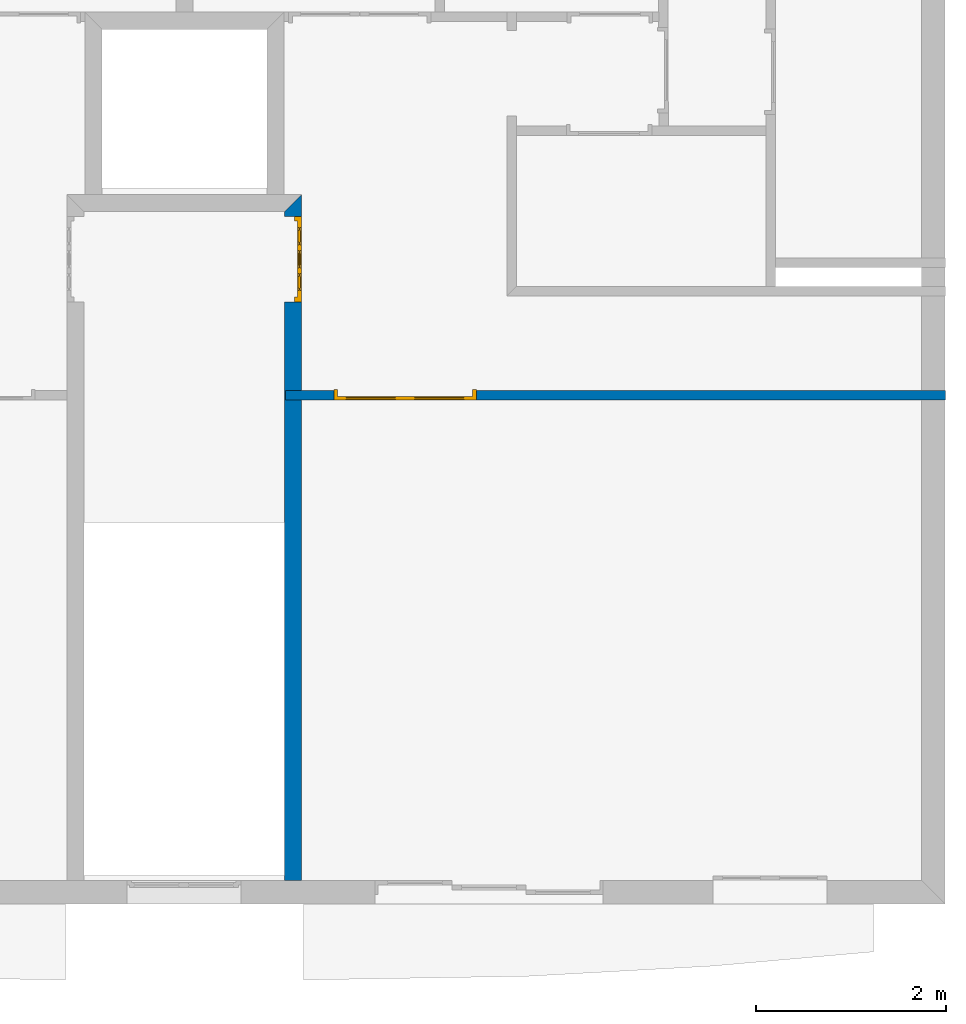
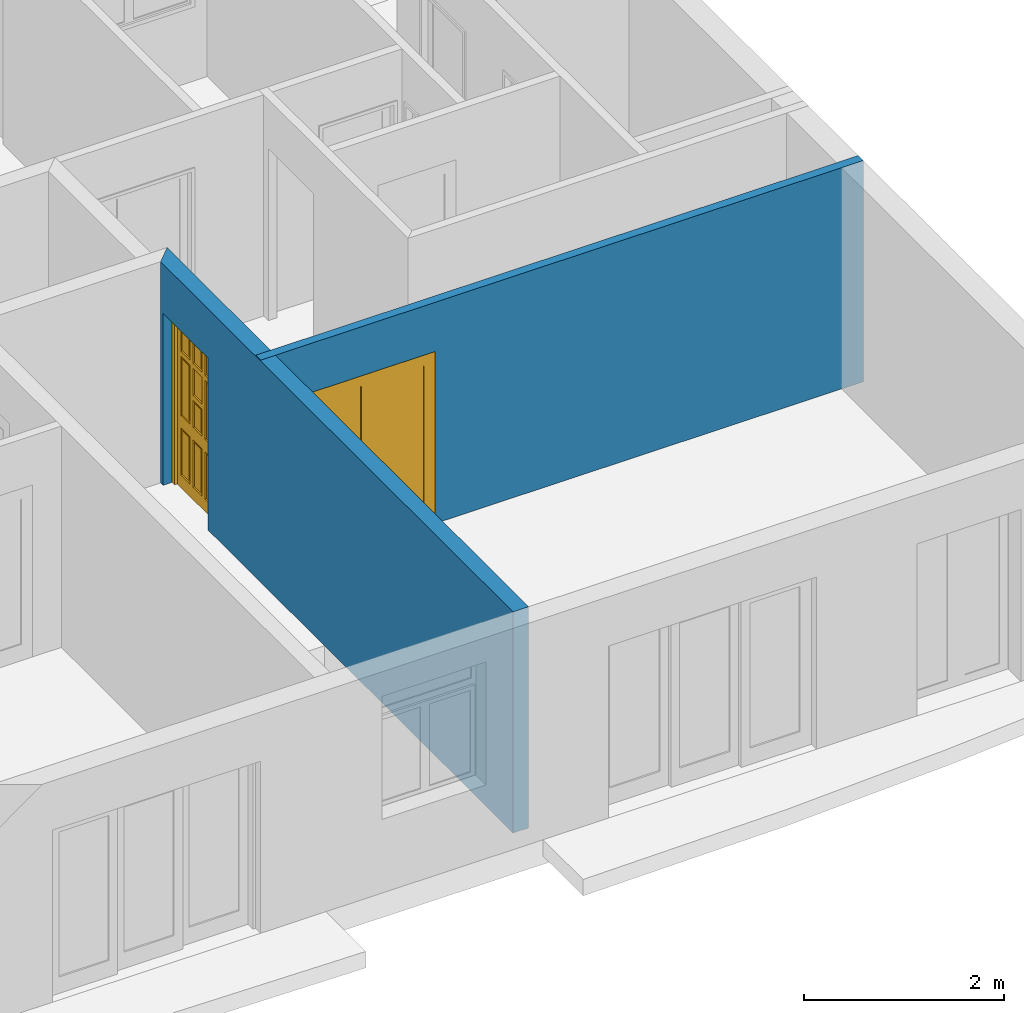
# One storey, part 6 of 11: 2 doors, 2 walls, 2 openings.
"""IFC2X3 building model written with IfcOpenShell, lengths in metres."""

from ifc_helpers import new_model, entity, si_unit, converted_unit, direction, frame, frame_2d, origin_with_axes, place, context, project, spatial, polyline, rectangle, outline, extrude, faceted_brep, source, transform, mapped, material, layer, layer_set, layer_usage, type_object, element, fill, save


model = new_model("IFC2X3")

# Units and contexts
context_of_model = context(None, 3, precision=1e-05, world=origin_with_axes(), true_north=direction((6.123234e-17, 1.0)))
plan_context = context("Plan", 3, precision=1e-05, world=origin_with_axes(), true_north=direction((6.123234e-17, 1.0)))
model_context = context("Model", 3, precision=1e-05, world=origin_with_axes(), true_north=direction((6.123234e-17, 1.0)))
ifc_project = project(units=[si_unit("LENGTHUNIT", "METRE"), si_unit("AREAUNIT", "SQUARE_METRE"), si_unit("VOLUMEUNIT", "CUBIC_METRE"), converted_unit("PLANEANGLEUNIT", "DEGREE", entity("IfcPlaneAngleMeasure", 0.017453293), si_unit("PLANEANGLEUNIT", "RADIAN"), dimensions=[0, 0, 0, 0, 0, 0, 0]), si_unit("SOLIDANGLEUNIT", "STERADIAN"), si_unit("MASSUNIT", "GRAM"), si_unit("TIMEUNIT", "SECOND"), si_unit("THERMODYNAMICTEMPERATUREUNIT", "DEGREE_CELSIUS"), si_unit("LUMINOUSINTENSITYUNIT", "LUMEN")], contexts=[context_of_model, plan_context, model_context])

# Site, building, storey
site_placement = place(None, origin_with_axes())
site = spatial("IfcSite", under=ifc_project, at=site_placement, Name="Por defecto Sitio", CompositionType="ELEMENT")
building_placement = place(site_placement, origin_with_axes())
building = spatial("IfcBuilding", under=site, at=building_placement, Name="Por defecto Edificio", CompositionType="ELEMENT")
storey_placement = place(building_placement, frame((0.0, 0.0, 13.2), z_axis=(0.0, 0.0, 1.0), x_axis=(1.0, 0.0, 0.0)))
storey = spatial("IfcBuildingStorey", under=building, at=storey_placement, Name="Cuarta", CompositionType="ELEMENT", Elevation=13.2)

# Wall, opening, door
ifc_material = material(Name="Ladrillo común")
ifc_layer_1 = layer(ifc_material, 0.18, ventilated="UNKNOWN")
ifc_layer_set_1 = layer_set([ifc_layer_1], Name="Ladrillo común")
ifc_layer_usage_1 = layer_usage(ifc_layer_set_1, "AXIS2", "POSITIVE", 0.0)
wall_type_1 = type_object("IfcWallType", Name="Ladrillo común", PredefinedType="NOTDEFINED")
wall_1_placement = place(storey_placement, frame((9.0691698, 7.2976562, 0.0), z_axis=(0.0, 0.0, 1.0), x_axis=(0.0, -1.0, 0.0)))
wall_1 = element("IfcWallStandardCase", 1, at=wall_1_placement, inside=storey, type_object=wall_type_1, material=ifc_layer_usage_1, Name="Muro-010", context=context_of_model, shape_type="SweptSolid", body=[
    extrude(outline(polyline([(0.0, 0.0), (7.0476562, 0.0), (7.0476562, 0.18), (-0.18, 0.18), (0.0, 0.0)])), origin_with_axes(), (0.0, 0.0, 1.0), 2.7),
])
opening_1_placement = place(wall_1_placement, frame((0.5, 0.0, 0.0), z_axis=(0.0, 0.0, 1.0), x_axis=(1.0, 0.0, 0.0)))
opening_1 = element("IfcOpeningElement", 2, at=opening_1_placement, cuts=wall_1, ObjectType="Opening", context=model_context, shape_type="SweptSolid", body=[
    extrude(rectangle(XDim=0.9, YDim=2.1, at=frame_2d((0.0, 1.05), x_axis=(-1.0, 0.0))), frame((0.0, 0.0, 0.0), z_axis=(0.0, 1.0, 0.0), x_axis=(-1.0, 0.0, 0.0)), (0.0, 0.0, 1.0), 0.18),
])
door_style_1 = type_object("IfcDoorStyle", Name="P1 Entrada 12", ConstructionType="NOTDEFINED", OperationType="SINGLE_SWING_RIGHT", ParameterTakesPrecedence=False, Sizeable=False)
shared_shape_1 = source(origin_with_axes(), model_context, "Body", "Brep", [
    faceted_brep([(0.05, 0.031, 0.0), (0.05, 0.031, 2.05), (0.05, 0.0, 2.05), (0.05, 0.0, 0.0), (0.038, 0.031, 2.05), (0.038, 0.031, 0.0), (0.038, 0.075, 2.05), (0.0, 0.075, 2.05), (0.0, 0.0, 2.05), (0.0, 0.0, 0.0), (0.0, 0.075, 0.0), (0.038, 0.075, 0.0)], [[[0, 1, 2, 3]], [[4, 1, 0, 5]], [[4, 6, 7, 8, 2, 1]], [[9, 3, 2, 8]], [[5, 0, 3, 9, 10, 11]], [[6, 4, 5, 11]], [[6, 11, 10, 7]], [[8, 7, 10, 9]]]),
    faceted_brep([(0.862, 0.031, 2.05), (0.85, 0.031, 2.05), (0.85, 0.0, 2.05), (0.9, 0.0, 2.05), (0.9, 0.075, 2.05), (0.862, 0.075, 2.05), (0.862, 0.031, 0.0), (0.85, 0.031, 0.0), (0.85, 0.0, 0.0), (0.9, 0.0, 0.0), (0.9, 0.075, 0.0), (0.862, 0.075, 0.0)], [[[0, 1, 2, 3, 4, 5]], [[1, 0, 6, 7]], [[1, 7, 8, 2]], [[8, 9, 3, 2]], [[9, 10, 4, 3]], [[11, 5, 4, 10]], [[0, 5, 11, 6]], [[6, 11, 10, 9, 8, 7]]]),
    faceted_brep([(0.038, 0.075, 2.062), (0.038, 0.075, 2.05), (0.0, 0.075, 2.05), (0.0, 0.075, 2.1), (0.9, 0.075, 2.1), (0.9, 0.075, 2.05), (0.862, 0.075, 2.05), (0.862, 0.075, 2.062), (0.038, 0.031, 2.062), (0.038, 0.031, 2.05), (0.05, 0.031, 2.05), (0.05, 0.0, 2.05), (0.0, 0.0, 2.05), (0.0, 0.0, 2.1), (0.9, 0.0, 2.1), (0.9, 0.0, 2.05), (0.862, 0.031, 2.05), (0.85, 0.0, 2.05), (0.85, 0.031, 2.05), (0.862, 0.031, 2.062)], [[[0, 1, 2, 3, 4, 5, 6, 7]], [[1, 0, 8, 9]], [[9, 10, 11, 12, 2, 1]], [[13, 3, 2, 12]], [[14, 4, 3, 13]], [[15, 5, 4, 14]], [[16, 6, 5, 15, 17, 18]], [[7, 6, 16, 19]], [[0, 7, 19, 8]], [[16, 18, 10, 9, 8, 19]], [[10, 18, 17, 11]], [[14, 13, 12, 11, 17, 15]]]),
    faceted_brep([(0.862, 0.075, 0.15), (0.862, 0.031, 0.15), (0.782, 0.031, 0.15), (0.782, 0.075, 0.15), (0.862, 0.075, 1.952), (0.862, 0.031, 1.952), (0.782, 0.031, 1.952), (0.782, 0.031, 1.6618667), (0.782, 0.031, 1.6018667), (0.782, 0.031, 0.88), (0.782, 0.031, 0.73), (0.782, 0.075, 0.73), (0.782, 0.075, 0.88), (0.782, 0.075, 1.6018667), (0.782, 0.075, 1.6618667), (0.782, 0.075, 1.952)], [[[0, 1, 2, 3]], [[4, 5, 1, 0]], [[1, 5, 6, 7, 8, 9, 10, 2]], [[3, 2, 10, 11]], [[0, 3, 11, 12, 13, 14, 15, 4]], [[15, 6, 5, 4]], [[14, 7, 6, 15]], [[13, 8, 7, 14]], [[12, 9, 8, 13]], [[11, 10, 9, 12]]]),
    faceted_brep([(0.038, 0.075, 0.15), (0.038, 0.031, 0.15), (0.038, 0.031, 1.952), (0.038, 0.075, 1.952), (0.118, 0.075, 0.15), (0.118, 0.031, 0.15), (0.118, 0.031, 0.73), (0.118, 0.031, 0.88), (0.118, 0.031, 1.6018667), (0.118, 0.031, 1.6618667), (0.118, 0.031, 1.952), (0.118, 0.075, 1.952), (0.118, 0.075, 1.6618667), (0.118, 0.075, 1.6018667), (0.118, 0.075, 0.88), (0.118, 0.075, 0.73)], [[[0, 1, 2, 3]], [[4, 5, 1, 0]], [[1, 5, 6, 7, 8, 9, 10, 2]], [[3, 2, 10, 11]], [[0, 3, 11, 12, 13, 14, 15, 4]], [[15, 6, 5, 4]], [[14, 7, 6, 15]], [[13, 8, 7, 14]], [[12, 9, 8, 13]], [[11, 10, 9, 12]]]),
    faceted_brep([(0.862, 0.075, 0.0), (0.862, 0.031, 0.0), (0.038, 0.031, 0.0), (0.038, 0.075, 0.0), (0.862, 0.075, 0.15), (0.862, 0.031, 0.15), (0.782, 0.031, 0.15), (0.60066667, 0.031, 0.15), (0.54066667, 0.031, 0.15), (0.35933333, 0.031, 0.15), (0.29933333, 0.031, 0.15), (0.118, 0.031, 0.15), (0.038, 0.031, 0.15), (0.038, 0.075, 0.15), (0.118, 0.075, 0.15), (0.29933333, 0.075, 0.15), (0.35933333, 0.075, 0.15), (0.54066667, 0.075, 0.15), (0.60066667, 0.075, 0.15), (0.782, 0.075, 0.15)], [[[0, 1, 2, 3]], [[4, 5, 1, 0]], [[1, 5, 6, 7, 8, 9, 10, 11, 12, 2]], [[3, 2, 12, 13]], [[0, 3, 13, 14, 15, 16, 17, 18, 19, 4]], [[19, 6, 5, 4]], [[18, 7, 6, 19]], [[17, 8, 7, 18]], [[16, 9, 8, 17]], [[15, 10, 9, 16]], [[14, 11, 10, 15]], [[13, 12, 11, 14]]]),
    faceted_brep([(0.862, 0.075, 2.062), (0.862, 0.031, 2.062), (0.862, 0.031, 1.952), (0.862, 0.075, 1.952), (0.038, 0.075, 2.062), (0.038, 0.031, 2.062), (0.038, 0.031, 1.952), (0.118, 0.031, 1.952), (0.29933333, 0.031, 1.952), (0.35933333, 0.031, 1.952), (0.54066667, 0.031, 1.952), (0.60066667, 0.031, 1.952), (0.782, 0.031, 1.952), (0.782, 0.075, 1.952), (0.60066667, 0.075, 1.952), (0.54066667, 0.075, 1.952), (0.35933333, 0.075, 1.952), (0.29933333, 0.075, 1.952), (0.118, 0.075, 1.952), (0.038, 0.075, 1.952)], [[[0, 1, 2, 3]], [[4, 5, 1, 0]], [[1, 5, 6, 7, 8, 9, 10, 11, 12, 2]], [[3, 2, 12, 13]], [[0, 3, 13, 14, 15, 16, 17, 18, 19, 4]], [[19, 6, 5, 4]], [[18, 7, 6, 19]], [[17, 8, 7, 18]], [[16, 9, 8, 17]], [[15, 10, 9, 16]], [[14, 11, 10, 15]], [[13, 12, 11, 14]]]),
    faceted_brep([(0.54066667, 0.075, 0.15), (0.54066667, 0.031, 0.15), (0.54066667, 0.031, 0.73), (0.54066667, 0.075, 0.73), (0.60066667, 0.075, 0.15), (0.60066667, 0.031, 0.15), (0.60066667, 0.031, 0.73), (0.60066667, 0.075, 0.73)], [[[0, 1, 2, 3]], [[4, 5, 1, 0]], [[1, 5, 6, 2]], [[3, 2, 6, 7]], [[0, 3, 7, 4]], [[7, 6, 5, 4]]]),
    faceted_brep([(0.54066667, 0.075, 0.88), (0.54066667, 0.031, 0.88), (0.54066667, 0.031, 1.2109333), (0.54066667, 0.075, 1.2109333), (0.60066667, 0.075, 0.88), (0.60066667, 0.031, 0.88), (0.60066667, 0.031, 1.6018667), (0.54066667, 0.031, 1.6018667), (0.54066667, 0.031, 1.2709333), (0.54066667, 0.075, 1.2709333), (0.54066667, 0.075, 1.6018667), (0.60066667, 0.075, 1.6018667)], [[[0, 1, 2, 3]], [[4, 5, 1, 0]], [[1, 5, 6, 7, 8, 2]], [[3, 2, 8, 9]], [[0, 3, 9, 10, 11, 4]], [[11, 6, 5, 4]], [[10, 7, 6, 11]], [[9, 8, 7, 10]]]),
    faceted_brep([(0.54066667, 0.075, 1.6618667), (0.54066667, 0.031, 1.6618667), (0.54066667, 0.031, 1.952), (0.54066667, 0.075, 1.952), (0.60066667, 0.075, 1.6618667), (0.60066667, 0.031, 1.6618667), (0.60066667, 0.031, 1.952), (0.60066667, 0.075, 1.952)], [[[0, 1, 2, 3]], [[4, 5, 1, 0]], [[1, 5, 6, 2]], [[3, 2, 6, 7]], [[0, 3, 7, 4]], [[7, 6, 5, 4]]]),
    faceted_brep([(0.29933333, 0.075, 0.15), (0.29933333, 0.031, 0.15), (0.29933333, 0.031, 0.73), (0.29933333, 0.075, 0.73), (0.35933333, 0.075, 0.15), (0.35933333, 0.031, 0.15), (0.35933333, 0.031, 0.73), (0.35933333, 0.075, 0.73)], [[[0, 1, 2, 3]], [[4, 5, 1, 0]], [[1, 5, 6, 2]], [[3, 2, 6, 7]], [[0, 3, 7, 4]], [[7, 6, 5, 4]]]),
    faceted_brep([(0.29933333, 0.075, 0.88), (0.29933333, 0.031, 0.88), (0.29933333, 0.031, 1.6018667), (0.29933333, 0.075, 1.6018667), (0.35933333, 0.075, 0.88), (0.35933333, 0.031, 0.88), (0.35933333, 0.031, 1.2109333), (0.35933333, 0.031, 1.2709333), (0.35933333, 0.031, 1.6018667), (0.35933333, 0.075, 1.6018667), (0.35933333, 0.075, 1.2709333), (0.35933333, 0.075, 1.2109333)], [[[0, 1, 2, 3]], [[4, 5, 1, 0]], [[1, 5, 6, 7, 8, 2]], [[3, 2, 8, 9]], [[0, 3, 9, 10, 11, 4]], [[11, 6, 5, 4]], [[10, 7, 6, 11]], [[9, 8, 7, 10]]]),
    faceted_brep([(0.29933333, 0.075, 1.6618667), (0.29933333, 0.031, 1.6618667), (0.29933333, 0.031, 1.952), (0.29933333, 0.075, 1.952), (0.35933333, 0.075, 1.6618667), (0.35933333, 0.031, 1.6618667), (0.35933333, 0.031, 1.952), (0.35933333, 0.075, 1.952)], [[[0, 1, 2, 3]], [[4, 5, 1, 0]], [[1, 5, 6, 2]], [[3, 2, 6, 7]], [[0, 3, 7, 4]], [[7, 6, 5, 4]]]),
    faceted_brep([(0.782, 0.075, 1.6018667), (0.782, 0.031, 1.6018667), (0.60066667, 0.031, 1.6018667), (0.60066667, 0.075, 1.6018667), (0.782, 0.075, 1.6618667), (0.782, 0.031, 1.6618667), (0.60066667, 0.031, 1.6618667), (0.54066667, 0.031, 1.6618667), (0.35933333, 0.031, 1.6618667), (0.29933333, 0.031, 1.6618667), (0.118, 0.031, 1.6618667), (0.118, 0.031, 1.6018667), (0.29933333, 0.031, 1.6018667), (0.35933333, 0.031, 1.6018667), (0.54066667, 0.031, 1.6018667), (0.54066667, 0.075, 1.6018667), (0.35933333, 0.075, 1.6018667), (0.29933333, 0.075, 1.6018667), (0.118, 0.075, 1.6018667), (0.118, 0.075, 1.6618667), (0.29933333, 0.075, 1.6618667), (0.35933333, 0.075, 1.6618667), (0.54066667, 0.075, 1.6618667), (0.60066667, 0.075, 1.6618667)], [[[0, 1, 2, 3]], [[4, 5, 1, 0]], [[1, 5, 6, 7, 8, 9, 10, 11, 12, 13, 14, 2]], [[3, 2, 14, 15]], [[0, 3, 15, 16, 17, 18, 19, 20, 21, 22, 23, 4]], [[23, 6, 5, 4]], [[22, 7, 6, 23]], [[21, 8, 7, 22]], [[20, 9, 8, 21]], [[19, 10, 9, 20]], [[18, 11, 10, 19]], [[17, 12, 11, 18]], [[16, 13, 12, 17]], [[15, 14, 13, 16]]]),
    faceted_brep([(0.35933333, 0.075, 1.2109333), (0.35933333, 0.031, 1.2109333), (0.35933333, 0.031, 1.2709333), (0.35933333, 0.075, 1.2709333), (0.54066667, 0.075, 1.2109333), (0.54066667, 0.031, 1.2109333), (0.54066667, 0.031, 1.2709333), (0.54066667, 0.075, 1.2709333)], [[[0, 1, 2, 3]], [[4, 5, 1, 0]], [[1, 5, 6, 2]], [[3, 2, 6, 7]], [[0, 3, 7, 4]], [[7, 6, 5, 4]]]),
    faceted_brep([(0.782, 0.075, 0.73), (0.782, 0.031, 0.73), (0.60066667, 0.031, 0.73), (0.60066667, 0.075, 0.73), (0.782, 0.075, 0.88), (0.782, 0.031, 0.88), (0.60066667, 0.031, 0.88), (0.54066667, 0.031, 0.88), (0.35933333, 0.031, 0.88), (0.29933333, 0.031, 0.88), (0.118, 0.031, 0.88), (0.118, 0.031, 0.73), (0.29933333, 0.031, 0.73), (0.35933333, 0.031, 0.73), (0.54066667, 0.031, 0.73), (0.54066667, 0.075, 0.73), (0.35933333, 0.075, 0.73), (0.29933333, 0.075, 0.73), (0.118, 0.075, 0.73), (0.118, 0.075, 0.88), (0.29933333, 0.075, 0.88), (0.35933333, 0.075, 0.88), (0.54066667, 0.075, 0.88), (0.60066667, 0.075, 0.88)], [[[0, 1, 2, 3]], [[4, 5, 1, 0]], [[1, 5, 6, 7, 8, 9, 10, 11, 12, 13, 14, 2]], [[3, 2, 14, 15]], [[0, 3, 15, 16, 17, 18, 19, 20, 21, 22, 23, 4]], [[23, 6, 5, 4]], [[22, 7, 6, 23]], [[21, 8, 7, 22]], [[20, 9, 8, 21]], [[19, 10, 9, 20]], [[18, 11, 10, 19]], [[17, 12, 11, 18]], [[16, 13, 12, 17]], [[15, 14, 13, 16]]]),
    faceted_brep([(0.782, 0.058, 0.15), (0.782, 0.048, 0.15), (0.60066667, 0.048, 0.15), (0.60066667, 0.058, 0.15), (0.782, 0.058, 0.73), (0.782, 0.048, 0.73), (0.60066667, 0.048, 0.73), (0.60066667, 0.058, 0.73)], [[[0, 1, 2, 3]], [[4, 5, 1, 0]], [[1, 5, 6, 2]], [[3, 2, 6, 7]], [[0, 3, 7, 4]], [[7, 6, 5, 4]]]),
    faceted_brep([(0.54066667, 0.058, 0.15), (0.54066667, 0.048, 0.15), (0.35933333, 0.048, 0.15), (0.35933333, 0.058, 0.15), (0.54066667, 0.058, 0.73), (0.54066667, 0.048, 0.73), (0.35933333, 0.048, 0.73), (0.35933333, 0.058, 0.73)], [[[0, 1, 2, 3]], [[4, 5, 1, 0]], [[1, 5, 6, 2]], [[3, 2, 6, 7]], [[0, 3, 7, 4]], [[7, 6, 5, 4]]]),
    faceted_brep([(0.29933333, 0.058, 0.15), (0.29933333, 0.048, 0.15), (0.118, 0.048, 0.15), (0.118, 0.058, 0.15), (0.29933333, 0.058, 0.73), (0.29933333, 0.048, 0.73), (0.118, 0.048, 0.73), (0.118, 0.058, 0.73)], [[[0, 1, 2, 3]], [[4, 5, 1, 0]], [[1, 5, 6, 2]], [[3, 2, 6, 7]], [[0, 3, 7, 4]], [[7, 6, 5, 4]]]),
    faceted_brep([(0.782, 0.058, 1.6618667), (0.782, 0.048, 1.6618667), (0.60066667, 0.048, 1.6618667), (0.60066667, 0.058, 1.6618667), (0.782, 0.058, 1.952), (0.782, 0.048, 1.952), (0.60066667, 0.048, 1.952), (0.60066667, 0.058, 1.952)], [[[0, 1, 2, 3]], [[4, 5, 1, 0]], [[1, 5, 6, 2]], [[3, 2, 6, 7]], [[0, 3, 7, 4]], [[7, 6, 5, 4]]]),
    faceted_brep([(0.54066667, 0.058, 1.6618667), (0.54066667, 0.048, 1.6618667), (0.35933333, 0.048, 1.6618667), (0.35933333, 0.058, 1.6618667), (0.54066667, 0.058, 1.952), (0.54066667, 0.048, 1.952), (0.35933333, 0.048, 1.952), (0.35933333, 0.058, 1.952)], [[[0, 1, 2, 3]], [[4, 5, 1, 0]], [[1, 5, 6, 2]], [[3, 2, 6, 7]], [[0, 3, 7, 4]], [[7, 6, 5, 4]]]),
    faceted_brep([(0.29933333, 0.058, 1.6618667), (0.29933333, 0.048, 1.6618667), (0.118, 0.048, 1.6618667), (0.118, 0.058, 1.6618667), (0.29933333, 0.058, 1.952), (0.29933333, 0.048, 1.952), (0.118, 0.048, 1.952), (0.118, 0.058, 1.952)], [[[0, 1, 2, 3]], [[4, 5, 1, 0]], [[1, 5, 6, 2]], [[3, 2, 6, 7]], [[0, 3, 7, 4]], [[7, 6, 5, 4]]]),
    faceted_brep([(0.782, 0.058, 0.88), (0.782, 0.048, 0.88), (0.60066667, 0.048, 0.88), (0.60066667, 0.058, 0.88), (0.782, 0.058, 1.6018667), (0.782, 0.048, 1.6018667), (0.60066667, 0.048, 1.6018667), (0.60066667, 0.058, 1.6018667)], [[[0, 1, 2, 3]], [[4, 5, 1, 0]], [[1, 5, 6, 2]], [[3, 2, 6, 7]], [[0, 3, 7, 4]], [[7, 6, 5, 4]]]),
    faceted_brep([(0.54066667, 0.058, 0.88), (0.54066667, 0.048, 0.88), (0.35933333, 0.048, 0.88), (0.35933333, 0.058, 0.88), (0.54066667, 0.058, 1.2109333), (0.54066667, 0.048, 1.2109333), (0.35933333, 0.048, 1.2109333), (0.35933333, 0.058, 1.2109333)], [[[0, 1, 2, 3]], [[4, 5, 1, 0]], [[1, 5, 6, 2]], [[3, 2, 6, 7]], [[0, 3, 7, 4]], [[7, 6, 5, 4]]]),
    faceted_brep([(0.29933333, 0.058, 0.88), (0.29933333, 0.048, 0.88), (0.118, 0.048, 0.88), (0.118, 0.058, 0.88), (0.29933333, 0.058, 1.6018667), (0.29933333, 0.048, 1.6018667), (0.118, 0.048, 1.6018667), (0.118, 0.058, 1.6018667)], [[[0, 1, 2, 3]], [[4, 5, 1, 0]], [[1, 5, 6, 2]], [[3, 2, 6, 7]], [[0, 3, 7, 4]], [[7, 6, 5, 4]]]),
    faceted_brep([(0.54066667, 0.058, 1.2709333), (0.54066667, 0.048, 1.2709333), (0.35933333, 0.048, 1.2709333), (0.35933333, 0.058, 1.2709333), (0.54066667, 0.058, 1.6018667), (0.54066667, 0.048, 1.6018667), (0.35933333, 0.048, 1.6018667), (0.35933333, 0.058, 1.6018667)], [[[0, 1, 2, 3]], [[4, 5, 1, 0]], [[1, 5, 6, 2]], [[3, 2, 6, 7]], [[0, 3, 7, 4]], [[7, 6, 5, 4]]]),
    faceted_brep([(0.752, 0.066, 0.18), (0.752, 0.058, 0.18), (0.63066667, 0.058, 0.18), (0.63066667, 0.066, 0.18), (0.752, 0.066, 0.7), (0.752, 0.058, 0.7), (0.63066667, 0.058, 0.7), (0.63066667, 0.066, 0.7)], [[[0, 1, 2, 3]], [[4, 5, 1, 0]], [[1, 5, 6, 2]], [[3, 2, 6, 7]], [[0, 3, 7, 4]], [[7, 6, 5, 4]]]),
    faceted_brep([(0.51066667, 0.066, 0.18), (0.51066667, 0.058, 0.18), (0.38933333, 0.058, 0.18), (0.38933333, 0.066, 0.18), (0.51066667, 0.066, 0.7), (0.51066667, 0.058, 0.7), (0.38933333, 0.058, 0.7), (0.38933333, 0.066, 0.7)], [[[0, 1, 2, 3]], [[4, 5, 1, 0]], [[1, 5, 6, 2]], [[3, 2, 6, 7]], [[0, 3, 7, 4]], [[7, 6, 5, 4]]]),
    faceted_brep([(0.26933333, 0.066, 0.18), (0.26933333, 0.058, 0.18), (0.148, 0.058, 0.18), (0.148, 0.066, 0.18), (0.26933333, 0.066, 0.7), (0.26933333, 0.058, 0.7), (0.148, 0.058, 0.7), (0.148, 0.066, 0.7)], [[[0, 1, 2, 3]], [[4, 5, 1, 0]], [[1, 5, 6, 2]], [[3, 2, 6, 7]], [[0, 3, 7, 4]], [[7, 6, 5, 4]]]),
    faceted_brep([(0.752, 0.066, 1.6918667), (0.752, 0.058, 1.6918667), (0.63066667, 0.058, 1.6918667), (0.63066667, 0.066, 1.6918667), (0.752, 0.066, 1.922), (0.752, 0.058, 1.922), (0.63066667, 0.058, 1.922), (0.63066667, 0.066, 1.922)], [[[0, 1, 2, 3]], [[4, 5, 1, 0]], [[1, 5, 6, 2]], [[3, 2, 6, 7]], [[0, 3, 7, 4]], [[7, 6, 5, 4]]]),
    faceted_brep([(0.51066667, 0.066, 1.6918667), (0.51066667, 0.058, 1.6918667), (0.38933333, 0.058, 1.6918667), (0.38933333, 0.066, 1.6918667), (0.51066667, 0.066, 1.922), (0.51066667, 0.058, 1.922), (0.38933333, 0.058, 1.922), (0.38933333, 0.066, 1.922)], [[[0, 1, 2, 3]], [[4, 5, 1, 0]], [[1, 5, 6, 2]], [[3, 2, 6, 7]], [[0, 3, 7, 4]], [[7, 6, 5, 4]]]),
    faceted_brep([(0.26933333, 0.066, 1.6918667), (0.26933333, 0.058, 1.6918667), (0.148, 0.058, 1.6918667), (0.148, 0.066, 1.6918667), (0.26933333, 0.066, 1.922), (0.26933333, 0.058, 1.922), (0.148, 0.058, 1.922), (0.148, 0.066, 1.922)], [[[0, 1, 2, 3]], [[4, 5, 1, 0]], [[1, 5, 6, 2]], [[3, 2, 6, 7]], [[0, 3, 7, 4]], [[7, 6, 5, 4]]]),
    faceted_brep([(0.752, 0.066, 0.91), (0.752, 0.058, 0.91), (0.63066667, 0.058, 0.91), (0.63066667, 0.066, 0.91), (0.752, 0.066, 1.5718667), (0.752, 0.058, 1.5718667), (0.63066667, 0.058, 1.5718667), (0.63066667, 0.066, 1.5718667)], [[[0, 1, 2, 3]], [[4, 5, 1, 0]], [[1, 5, 6, 2]], [[3, 2, 6, 7]], [[0, 3, 7, 4]], [[7, 6, 5, 4]]]),
    faceted_brep([(0.51066667, 0.066, 0.91), (0.51066667, 0.058, 0.91), (0.38933333, 0.058, 0.91), (0.38933333, 0.066, 0.91), (0.51066667, 0.066, 1.1809333), (0.51066667, 0.058, 1.1809333), (0.38933333, 0.058, 1.1809333), (0.38933333, 0.066, 1.1809333)], [[[0, 1, 2, 3]], [[4, 5, 1, 0]], [[1, 5, 6, 2]], [[3, 2, 6, 7]], [[0, 3, 7, 4]], [[7, 6, 5, 4]]]),
    faceted_brep([(0.26933333, 0.066, 0.91), (0.26933333, 0.058, 0.91), (0.148, 0.058, 0.91), (0.148, 0.066, 0.91), (0.26933333, 0.066, 1.5718667), (0.26933333, 0.058, 1.5718667), (0.148, 0.058, 1.5718667), (0.148, 0.066, 1.5718667)], [[[0, 1, 2, 3]], [[4, 5, 1, 0]], [[1, 5, 6, 2]], [[3, 2, 6, 7]], [[0, 3, 7, 4]], [[7, 6, 5, 4]]]),
    faceted_brep([(0.752, 0.048, 0.18), (0.752, 0.04, 0.18), (0.63066667, 0.04, 0.18), (0.63066667, 0.048, 0.18), (0.752, 0.048, 0.7), (0.752, 0.04, 0.7), (0.63066667, 0.04, 0.7), (0.63066667, 0.048, 0.7)], [[[0, 1, 2, 3]], [[4, 5, 1, 0]], [[1, 5, 6, 2]], [[3, 2, 6, 7]], [[0, 3, 7, 4]], [[7, 6, 5, 4]]]),
    faceted_brep([(0.51066667, 0.048, 0.18), (0.51066667, 0.04, 0.18), (0.38933333, 0.04, 0.18), (0.38933333, 0.048, 0.18), (0.51066667, 0.048, 0.7), (0.51066667, 0.04, 0.7), (0.38933333, 0.04, 0.7), (0.38933333, 0.048, 0.7)], [[[0, 1, 2, 3]], [[4, 5, 1, 0]], [[1, 5, 6, 2]], [[3, 2, 6, 7]], [[0, 3, 7, 4]], [[7, 6, 5, 4]]]),
    faceted_brep([(0.26933333, 0.048, 0.18), (0.26933333, 0.04, 0.18), (0.148, 0.04, 0.18), (0.148, 0.048, 0.18), (0.26933333, 0.048, 0.7), (0.26933333, 0.04, 0.7), (0.148, 0.04, 0.7), (0.148, 0.048, 0.7)], [[[0, 1, 2, 3]], [[4, 5, 1, 0]], [[1, 5, 6, 2]], [[3, 2, 6, 7]], [[0, 3, 7, 4]], [[7, 6, 5, 4]]]),
    faceted_brep([(0.752, 0.048, 1.6918667), (0.752, 0.04, 1.6918667), (0.63066667, 0.04, 1.6918667), (0.63066667, 0.048, 1.6918667), (0.752, 0.048, 1.922), (0.752, 0.04, 1.922), (0.63066667, 0.04, 1.922), (0.63066667, 0.048, 1.922)], [[[0, 1, 2, 3]], [[4, 5, 1, 0]], [[1, 5, 6, 2]], [[3, 2, 6, 7]], [[0, 3, 7, 4]], [[7, 6, 5, 4]]]),
    faceted_brep([(0.51066667, 0.048, 1.6918667), (0.51066667, 0.04, 1.6918667), (0.38933333, 0.04, 1.6918667), (0.38933333, 0.048, 1.6918667), (0.51066667, 0.048, 1.922), (0.51066667, 0.04, 1.922), (0.38933333, 0.04, 1.922), (0.38933333, 0.048, 1.922)], [[[0, 1, 2, 3]], [[4, 5, 1, 0]], [[1, 5, 6, 2]], [[3, 2, 6, 7]], [[0, 3, 7, 4]], [[7, 6, 5, 4]]]),
    faceted_brep([(0.26933333, 0.048, 1.6918667), (0.26933333, 0.04, 1.6918667), (0.148, 0.04, 1.6918667), (0.148, 0.048, 1.6918667), (0.26933333, 0.048, 1.922), (0.26933333, 0.04, 1.922), (0.148, 0.04, 1.922), (0.148, 0.048, 1.922)], [[[0, 1, 2, 3]], [[4, 5, 1, 0]], [[1, 5, 6, 2]], [[3, 2, 6, 7]], [[0, 3, 7, 4]], [[7, 6, 5, 4]]]),
    faceted_brep([(0.752, 0.048, 0.91), (0.752, 0.04, 0.91), (0.63066667, 0.04, 0.91), (0.63066667, 0.048, 0.91), (0.752, 0.048, 1.5718667), (0.752, 0.04, 1.5718667), (0.63066667, 0.04, 1.5718667), (0.63066667, 0.048, 1.5718667)], [[[0, 1, 2, 3]], [[4, 5, 1, 0]], [[1, 5, 6, 2]], [[3, 2, 6, 7]], [[0, 3, 7, 4]], [[7, 6, 5, 4]]]),
    faceted_brep([(0.51066667, 0.048, 0.91), (0.51066667, 0.04, 0.91), (0.38933333, 0.04, 0.91), (0.38933333, 0.048, 0.91), (0.51066667, 0.048, 1.1809333), (0.51066667, 0.04, 1.1809333), (0.38933333, 0.04, 1.1809333), (0.38933333, 0.048, 1.1809333)], [[[0, 1, 2, 3]], [[4, 5, 1, 0]], [[1, 5, 6, 2]], [[3, 2, 6, 7]], [[0, 3, 7, 4]], [[7, 6, 5, 4]]]),
    faceted_brep([(0.26933333, 0.048, 0.91), (0.26933333, 0.04, 0.91), (0.148, 0.04, 0.91), (0.148, 0.048, 0.91), (0.26933333, 0.048, 1.5718667), (0.26933333, 0.04, 1.5718667), (0.148, 0.04, 1.5718667), (0.148, 0.048, 1.5718667)], [[[0, 1, 2, 3]], [[4, 5, 1, 0]], [[1, 5, 6, 2]], [[3, 2, 6, 7]], [[0, 3, 7, 4]], [[7, 6, 5, 4]]]),
])
door_1_placement = place(opening_1_placement, frame((-0.45, 0.105, 0.0), z_axis=(0.0, 0.0, 1.0), x_axis=(1.0, 0.0, 0.0)))
door_1 = element("IfcDoor", 3, at=door_1_placement, inside=storey, type_object=door_style_1, Name="P14", OverallHeight=2.1, OverallWidth=0.9, context=model_context, shape_type="MappedRepresentation", body=[
    mapped(shared_shape_1, transform((0.0, 0.0, 0.0), scale=1.0)),
])
fill(opening_1, door_1)

ifc_layer_2 = layer(ifc_material, 0.1, ventilated="UNKNOWN")
ifc_layer_set_2 = layer_set([ifc_layer_2], Name="Ladrillo común")
ifc_layer_usage_2 = layer_usage(ifc_layer_set_2, "AXIS2", "NEGATIVE", 0.0)
wall_type_2 = type_object("IfcWallType", Name="Ladrillo común", PredefinedType="NOTDEFINED")
wall_2_placement = place(storey_placement, frame((9.0790135, 5.4111305, 0.0), z_axis=(0.0, 0.0, 1.0), x_axis=(0.99999999, 0.00010659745, 0.0)))
wall_2 = element("IfcWallStandardCase", 4, at=wall_2_placement, inside=storey, type_object=wall_type_2, material=ifc_layer_usage_2, Name="Muro-019", context=context_of_model, shape_type="SweptSolid", body=[
    extrude(outline(polyline([(0.0, -0.1), (6.9568271, -0.1), (6.9568271, 0.0), (0.0, 0.0), (0.0, -0.1)])), origin_with_axes(), (0.0, 0.0, 1.0), 2.7),
])
opening_2_placement = place(wall_2_placement, frame((1.2626457, -0.1, 0.0), z_axis=(0.0, 0.0, 1.0), x_axis=(1.0, 0.0, 0.0)))
opening_2 = element("IfcOpeningElement", 5, at=opening_2_placement, cuts=wall_2, ObjectType="Opening", context=model_context, shape_type="SweptSolid", body=[
    extrude(rectangle(XDim=1.5, YDim=2.1, at=frame_2d((0.0, 1.05), x_axis=(-1.0, 0.0))), frame((0.0, 0.0, 0.0), z_axis=(0.0, 1.0, 0.0), x_axis=(-1.0, 0.0, 0.0)), (0.0, 0.0, 1.0), 0.1),
])
door_style_2 = type_object("IfcDoorStyle", Name="P2 12", ConstructionType="NOTDEFINED", OperationType="DOUBLE_DOOR_SINGLE_SWING", ParameterTakesPrecedence=False, Sizeable=False)
shared_shape_2 = source(origin_with_axes(), model_context, "Body", "Brep", [
    faceted_brep([(1.46, 0.075, 0.0), (1.46, 1.7763568e-15, 0.0), (1.46, 1.7763568e-15, 2.06), (1.46, 0.075, 2.06), (1.472, 0.075, 0.0), (1.472, 0.115, 0.0), (1.5, 0.115, 0.0), (1.5, 1.7763568e-15, 0.0), (1.5, 1.7763568e-15, 2.06), (1.472, 0.075, 2.06), (1.5, 0.115, 2.06), (1.472, 0.115, 2.06)], [[[0, 1, 2, 3]], [[4, 5, 6, 7, 1, 0]], [[7, 8, 2, 1]], [[9, 3, 2, 8, 10, 11]], [[9, 4, 0, 3]], [[11, 5, 4, 9]], [[11, 10, 6, 5]], [[8, 7, 6, 10]]]),
    faceted_brep([(0.028, 0.075, 2.06), (0.028, 0.115, 2.06), (1.7763568e-15, 0.115, 2.06), (-1.7763568e-15, 0.0, 2.06), (0.04, 1.7763568e-15, 2.06), (0.04, 0.075, 2.06), (0.028, 0.075, 0.0), (0.028, 0.115, 0.0), (1.7763568e-15, 0.115, 0.0), (0.0, 0.0, 0.0), (0.04, 1.7763568e-15, 0.0), (0.04, 0.075, 0.0)], [[[0, 1, 2, 3, 4, 5]], [[0, 6, 7, 1]], [[7, 8, 2, 1]], [[9, 3, 2, 8]], [[10, 4, 3, 9]], [[5, 4, 10, 11]], [[5, 11, 6, 0]], [[6, 11, 10, 9, 8, 7]]]),
    faceted_brep([(1.472, 0.115, 2.072), (0.028, 0.115, 2.072), (0.028, 0.115, 2.06), (1.7763568e-15, 0.115, 2.06), (1.7763568e-15, 0.115, 2.1), (1.5, 0.115, 2.1), (1.5, 0.115, 2.06), (1.472, 0.115, 2.06), (1.472, 0.075, 2.072), (0.028, 0.075, 2.072), (0.028, 0.075, 2.06), (0.04, 0.075, 2.06), (0.04, 1.7763568e-15, 2.06), (-1.7763568e-15, 0.0, 2.06), (-1.7763568e-15, 0.0, 2.1), (1.5, 1.7763568e-15, 2.1), (1.5, 1.7763568e-15, 2.06), (1.472, 0.075, 2.06), (1.46, 1.7763568e-15, 2.06), (1.46, 0.075, 2.06)], [[[0, 1, 2, 3, 4, 5, 6, 7]], [[0, 8, 9, 1]], [[1, 9, 10, 2]], [[10, 11, 12, 13, 3, 2]], [[13, 14, 4, 3]], [[14, 15, 5, 4]], [[15, 16, 6, 5]], [[17, 7, 6, 16, 18, 19]], [[7, 17, 8, 0]], [[10, 9, 8, 17, 19, 11]], [[19, 18, 12, 11]], [[14, 13, 12, 18, 16, 15]]]),
    faceted_brep([(0.028, 0.115, 0.2), (0.128, 0.115, 0.2), (0.128, 0.075, 0.2), (0.028, 0.075, 0.2), (0.028, 0.115, 1.972), (0.128, 0.115, 1.972), (0.128, 0.075, 1.972), (0.028, 0.075, 1.972)], [[[0, 1, 2, 3]], [[0, 4, 5, 1]], [[1, 5, 6, 2]], [[3, 2, 6, 7]], [[4, 0, 3, 7]], [[5, 4, 7, 6]]]),
    faceted_brep([(0.749, 0.115, 0.2), (0.749, 0.115, 1.972), (0.749, 0.075, 1.972), (0.749, 0.075, 0.2), (0.649, 0.115, 0.2), (0.649, 0.115, 1.972), (0.649, 0.075, 1.972), (0.649, 0.075, 0.2)], [[[0, 1, 2, 3]], [[0, 4, 5, 1]], [[1, 5, 6, 2]], [[3, 2, 6, 7]], [[4, 0, 3, 7]], [[5, 4, 7, 6]]]),
    faceted_brep([(0.028, 0.115, 0.0), (0.749, 0.115, 0.0), (0.749, 0.075, 0.0), (0.028, 0.075, 0.0), (0.028, 0.115, 0.2), (0.128, 0.115, 0.2), (0.649, 0.115, 0.2), (0.749, 0.115, 0.2), (0.749, 0.075, 0.2), (0.649, 0.075, 0.2), (0.128, 0.075, 0.2), (0.028, 0.075, 0.2)], [[[0, 1, 2, 3]], [[0, 4, 5, 6, 7, 1]], [[1, 7, 8, 2]], [[3, 2, 8, 9, 10, 11]], [[4, 0, 3, 11]], [[5, 4, 11, 10]], [[6, 5, 10, 9]], [[7, 6, 9, 8]]]),
    faceted_brep([(0.028, 0.115, 2.072), (0.028, 0.115, 1.972), (0.028, 0.075, 1.972), (0.028, 0.075, 2.072), (0.749, 0.115, 2.072), (0.749, 0.115, 1.972), (0.649, 0.115, 1.972), (0.128, 0.115, 1.972), (0.128, 0.075, 1.972), (0.649, 0.075, 1.972), (0.749, 0.075, 1.972), (0.749, 0.075, 2.072)], [[[0, 1, 2, 3]], [[0, 4, 5, 6, 7, 1]], [[1, 7, 8, 2]], [[3, 2, 8, 9, 10, 11]], [[4, 0, 3, 11]], [[5, 4, 11, 10]], [[6, 5, 10, 9]], [[7, 6, 9, 8]]]),
    faceted_brep([(0.128, 0.101, 0.2), (0.649, 0.101, 0.2), (0.649, 0.089, 0.2), (0.128, 0.089, 0.2), (0.128, 0.101, 1.972), (0.649, 0.101, 1.972), (0.649, 0.089, 1.972), (0.128, 0.089, 1.972)], [[[0, 1, 2, 3]], [[0, 4, 5, 1]], [[1, 5, 6, 2]], [[3, 2, 6, 7]], [[4, 0, 3, 7]], [[5, 4, 7, 6]]]),
    faceted_brep([(1.472, 0.115, 0.2), (1.472, 0.075, 0.2), (1.372, 0.075, 0.2), (1.372, 0.115, 0.2), (1.472, 0.115, 1.972), (1.472, 0.075, 1.972), (1.372, 0.075, 1.972), (1.372, 0.115, 1.972)], [[[0, 1, 2, 3]], [[4, 5, 1, 0]], [[1, 5, 6, 2]], [[3, 2, 6, 7]], [[0, 3, 7, 4]], [[7, 6, 5, 4]]]),
    faceted_brep([(0.751, 0.115, 0.2), (0.751, 0.075, 0.2), (0.751, 0.075, 1.972), (0.751, 0.115, 1.972), (0.851, 0.115, 0.2), (0.851, 0.075, 0.2), (0.851, 0.075, 1.972), (0.851, 0.115, 1.972)], [[[0, 1, 2, 3]], [[4, 5, 1, 0]], [[1, 5, 6, 2]], [[3, 2, 6, 7]], [[0, 3, 7, 4]], [[7, 6, 5, 4]]]),
    faceted_brep([(1.472, 0.115, 0.0), (1.472, 0.075, 0.0), (0.751, 0.075, 0.0), (0.751, 0.115, 0.0), (1.472, 0.115, 0.2), (1.472, 0.075, 0.2), (1.372, 0.075, 0.2), (0.851, 0.075, 0.2), (0.751, 0.075, 0.2), (0.751, 0.115, 0.2), (0.851, 0.115, 0.2), (1.372, 0.115, 0.2)], [[[0, 1, 2, 3]], [[4, 5, 1, 0]], [[1, 5, 6, 7, 8, 2]], [[3, 2, 8, 9]], [[0, 3, 9, 10, 11, 4]], [[11, 6, 5, 4]], [[10, 7, 6, 11]], [[9, 8, 7, 10]]]),
    faceted_brep([(1.472, 0.115, 2.072), (1.472, 0.075, 2.072), (1.472, 0.075, 1.972), (1.472, 0.115, 1.972), (0.751, 0.115, 2.072), (0.751, 0.075, 2.072), (0.751, 0.075, 1.972), (0.851, 0.075, 1.972), (1.372, 0.075, 1.972), (1.372, 0.115, 1.972), (0.851, 0.115, 1.972), (0.751, 0.115, 1.972)], [[[0, 1, 2, 3]], [[4, 5, 1, 0]], [[1, 5, 6, 7, 8, 2]], [[3, 2, 8, 9]], [[0, 3, 9, 10, 11, 4]], [[11, 6, 5, 4]], [[10, 7, 6, 11]], [[9, 8, 7, 10]]]),
    faceted_brep([(1.372, 0.101, 0.2), (1.372, 0.089, 0.2), (0.851, 0.089, 0.2), (0.851, 0.101, 0.2), (1.372, 0.101, 1.972), (1.372, 0.089, 1.972), (0.851, 0.089, 1.972), (0.851, 0.101, 1.972)], [[[0, 1, 2, 3]], [[4, 5, 1, 0]], [[1, 5, 6, 2]], [[3, 2, 6, 7]], [[0, 3, 7, 4]], [[7, 6, 5, 4]]]),
])
door_2_placement = place(opening_2_placement, frame((0.75, 0.115, 0.0), z_axis=(0.0, 0.0, 1.0), x_axis=(-1.0, 0.0, 0.0)))
door_2 = element("IfcDoor", 6, at=door_2_placement, inside=storey, type_object=door_style_2, Name="P28", OverallHeight=2.1, OverallWidth=1.5, context=model_context, shape_type="MappedRepresentation", body=[
    mapped(shared_shape_2, transform((0.0, 0.0, 0.0), scale=1.0)),
])
fill(opening_2, door_2)

save(model, "model.ifc")
